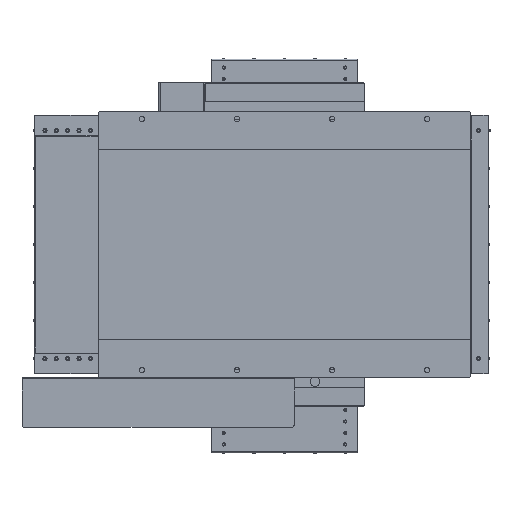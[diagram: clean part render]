
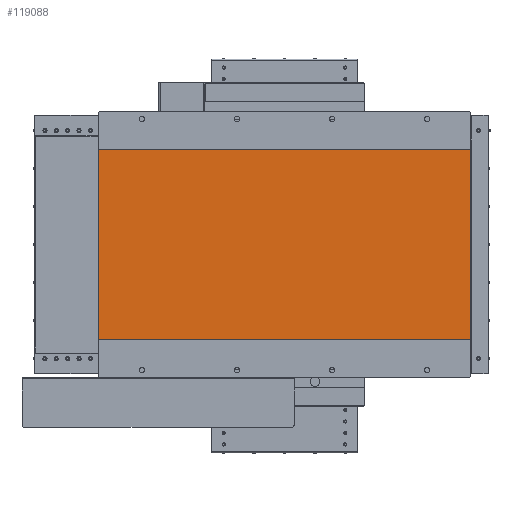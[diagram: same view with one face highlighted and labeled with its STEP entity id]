
A CAD part, front view. The second image highlights one B-rep face of the part: STEP entity #119088.
In plain terms, the highlighted planar face has unit normal (0, -1, 0).
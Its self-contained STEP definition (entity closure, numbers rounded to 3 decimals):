
#2628 = CARTESIAN_POINT ( 'NONE',  ( -490., 1., 250. ) ) ;
#16036 = CARTESIAN_POINT ( 'NONE',  ( 490., 1., 250. ) ) ;
#21137 = VERTEX_POINT ( 'NONE', #81136 ) ;
#21553 = CARTESIAN_POINT ( 'NONE',  ( -490., 1., 250. ) ) ;
#24667 = LINE ( 'NONE', #2628, #92433 ) ;
#33663 = VERTEX_POINT ( 'NONE', #43264 ) ;
#34102 = FACE_OUTER_BOUND ( 'NONE', #118483, .T. ) ;
#37042 = VECTOR ( 'NONE', #55585, 1000. ) ;
#40068 = PLANE ( 'NONE',  #79645 ) ;
#42016 = ORIENTED_EDGE ( 'NONE', *, *, #66526, .T. ) ;
#43264 = CARTESIAN_POINT ( 'NONE',  ( 490., 1., -250. ) ) ;
#43391 = DIRECTION ( 'NONE',  ( 1., 0., 0. ) ) ;
#43679 = VECTOR ( 'NONE', #72068, 1000. ) ;
#48389 = LINE ( 'NONE', #102387, #114604 ) ;
#52137 = DIRECTION ( 'NONE',  ( 1., 0., 0. ) ) ;
#52733 = CARTESIAN_POINT ( 'NONE',  ( -490., 1., 250. ) ) ;
#53979 = EDGE_CURVE ( 'NONE', #33663, #111848, #98618, .T. ) ;
#55585 = DIRECTION ( 'NONE',  ( 0., 0., 1. ) ) ;
#61564 = EDGE_CURVE ( 'NONE', #92513, #21137, #125215, .T. ) ;
#64322 = EDGE_CURVE ( 'NONE', #21137, #111848, #24667, .T. ) ;
#66526 = EDGE_CURVE ( 'NONE', #92513, #33663, #48389, .T. ) ;
#70175 = DIRECTION ( 'NONE',  ( 0., 0., 1. ) ) ;
#72068 = DIRECTION ( 'NONE',  ( 0., 0., 1. ) ) ;
#79467 = CARTESIAN_POINT ( 'NONE',  ( -490., 1., -250. ) ) ;
#79645 = AXIS2_PLACEMENT_3D ( 'NONE', #21553, #108876, #70175 ) ;
#81136 = CARTESIAN_POINT ( 'NONE',  ( -490., 1., 250. ) ) ;
#92433 = VECTOR ( 'NONE', #43391, 1000. ) ;
#92513 = VERTEX_POINT ( 'NONE', #79467 ) ;
#98618 = LINE ( 'NONE', #16036, #37042 ) ;
#102103 = ORIENTED_EDGE ( 'NONE', *, *, #53979, .T. ) ;
#102387 = CARTESIAN_POINT ( 'NONE',  ( -490., 1., -250. ) ) ;
#104190 = ORIENTED_EDGE ( 'NONE', *, *, #64322, .F. ) ;
#107479 = CARTESIAN_POINT ( 'NONE',  ( 490., 1., 250. ) ) ;
#108876 = DIRECTION ( 'NONE',  ( 0., 1., 0. ) ) ;
#111848 = VERTEX_POINT ( 'NONE', #107479 ) ;
#112023 = ORIENTED_EDGE ( 'NONE', *, *, #61564, .F. ) ;
#114604 = VECTOR ( 'NONE', #52137, 1000. ) ;
#118483 = EDGE_LOOP ( 'NONE', ( #102103, #104190, #112023, #42016 ) ) ;
#119088 = ADVANCED_FACE ( 'NONE', ( #34102 ), #40068, .F. ) ;
#125215 = LINE ( 'NONE', #52733, #43679 ) ;
